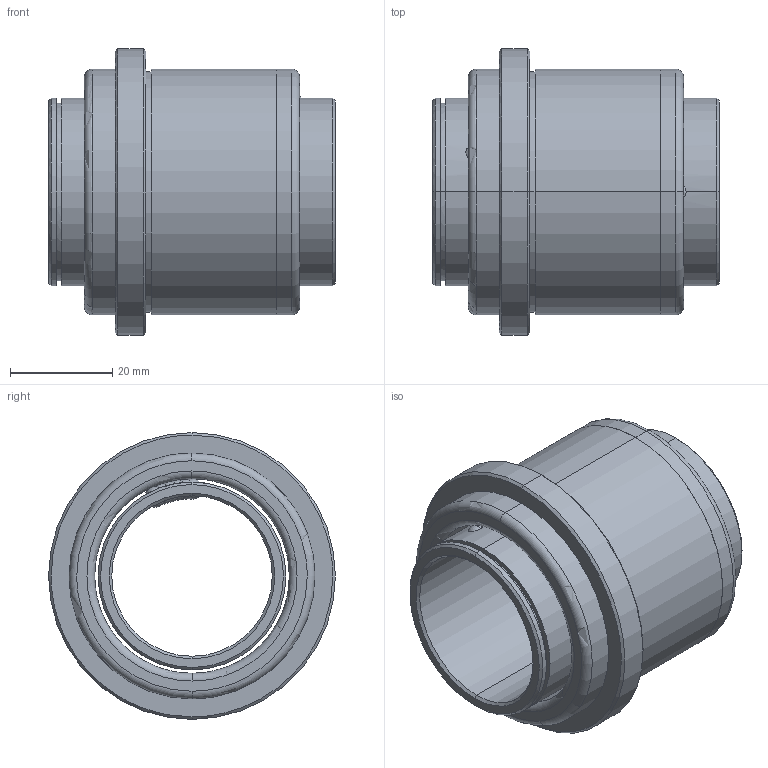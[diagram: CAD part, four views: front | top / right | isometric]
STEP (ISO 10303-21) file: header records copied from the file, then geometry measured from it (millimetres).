
FILE_DESCRIPTION(('CATIA V5 STEP Exchange'),'2;1');
FILE_NAME('C:\Users\Utente\Desktop\IO LAVORO\3D X SITO CF\X SITO\732\732-30.stp','2021-01-10T19:26:41+00:00',('none'),('none'),'CATIA Version 5 Release 20 GA (IN-10)','CATIA V5 STEP AP203','none');
FILE_SCHEMA(('CONFIG_CONTROL_DESIGN'));
Length unit declared in the file: millimetre
Products named in the file (1): 732-30
Assembly tree (2 placements, depth 2):
  732-30
    #58
    #1297
Bounding box: 56 x 56 x 56 mm (x, y, z)
Volume: 47708.4 mm3; surface area: 26492.1 mm2
Topology: 2 solids, 2 shells, 74 faces, 219 edges, 164 vertices
Faces by surface type: sphere 24, cylinder 20, cone 12, plane 10, torus 8
Entity records: 3096 total; most frequent: CARTESIAN_POINT 1097, ORIENTED_EDGE 438, DIRECTION 311, EDGE_CURVE 219, AXIS2_PLACEMENT_3D 198, VERTEX_POINT 164, CIRCLE 120, EDGE_LOOP 93
